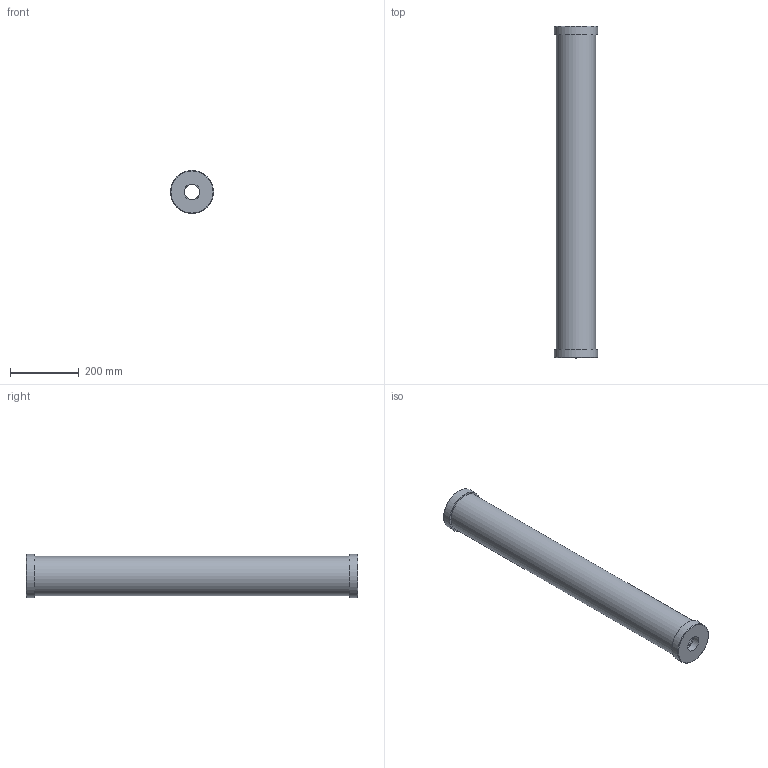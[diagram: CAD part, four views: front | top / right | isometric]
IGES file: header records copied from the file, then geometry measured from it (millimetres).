
Start section: SolidWorks IGES file using analytic representation for surfaces
Global section: file name: F:\Griffco-Valve\Griffco_current-projects\GV_web-files_2015\CAL cylinders\CC7000_P_BSPT.IGS; native system: SolidWorks 2014; preprocessor: SolidWorks 2014; author: Dan; date: 160321.043401; units: inch
Bounding box: 125.73 x 965.2 x 125.73 mm (x, y, z)
Surface area: 684026.6 mm2 (no closed solid volume)
Topology: 0 solids, 0 shells, 18 faces, 47 edges, 37 vertices
Faces by surface type: revolution 10, bspline 8
